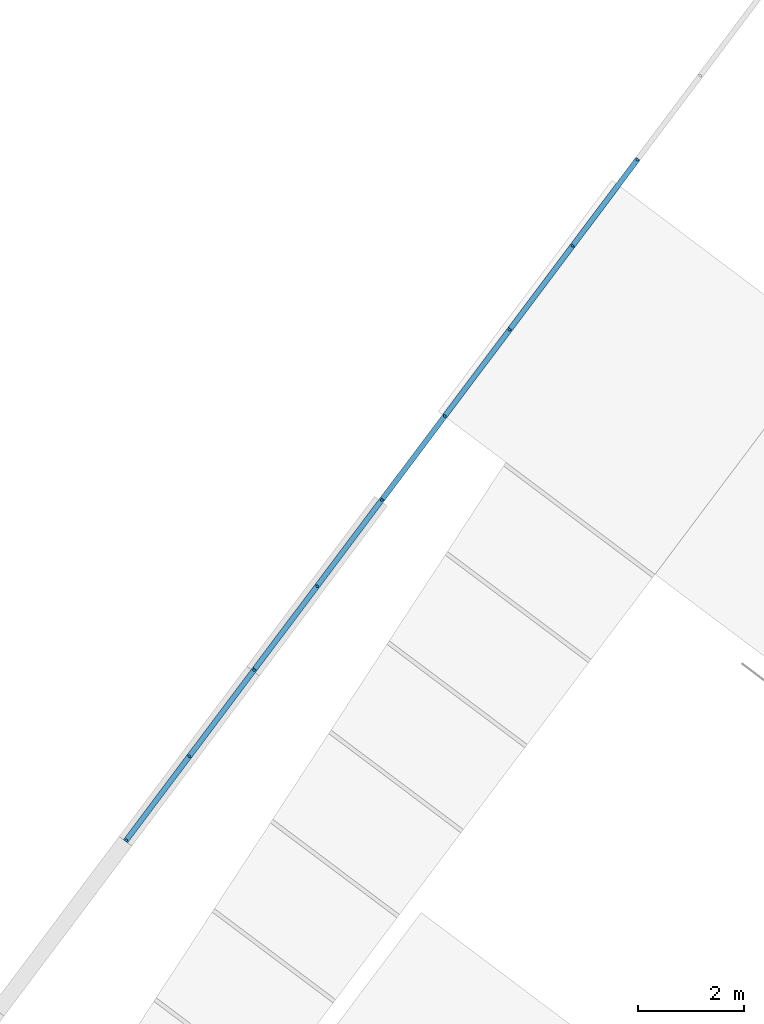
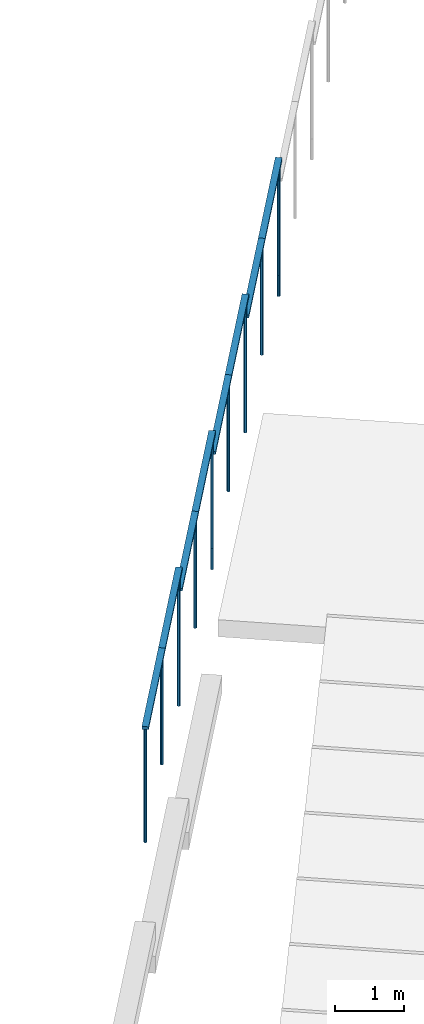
# One storey, part 17 of 33: 21 members, 5 elements without a shape of their own.
"""IFC2X3 building model written with IfcOpenShell, lengths in metres."""

from ifc_helpers import new_model, entity, si_unit, converted_unit, derived_unit, direction, frame, frame_2d, origin, origin_2d_with_axis, place, context, subcontext, project, spatial, rectangle, circle, extrude, source, transform, mapped, material, type_object, type_shapes, element, aggregate, save


model = new_model("IFC2X3")

# Units and contexts
model_context = context("Model", 3, precision=1e-05, world=origin(), true_north=direction((6.123031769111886e-17, 1.0)))
body_context = subcontext(model_context, "Body", "Model", "MODEL_VIEW")
ifc_project = project(units=[si_unit("LENGTHUNIT", "METRE"), si_unit("AREAUNIT", "SQUARE_METRE"), si_unit("VOLUMEUNIT", "CUBIC_METRE"), converted_unit("PLANEANGLEUNIT", "DEGREE", entity("IfcRatioMeasure", 0.017453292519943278), si_unit("PLANEANGLEUNIT", "RADIAN"), dimensions=[0, 0, 0, 0, 0, 0, 0]), si_unit("MASSUNIT", "GRAM", prefix="KILO"), derived_unit("MASSDENSITYUNIT", [(si_unit("MASSUNIT", "GRAM", prefix="KILO"), 1), (si_unit("LENGTHUNIT", "METRE"), -3)]), derived_unit("IONCONCENTRATIONUNIT", [(si_unit("MASSUNIT", "GRAM", prefix="KILO"), 1), (si_unit("LENGTHUNIT", "METRE"), -3)]), derived_unit("MOMENTOFINERTIAUNIT", [(si_unit("LENGTHUNIT", "METRE"), 4)]), si_unit("TIMEUNIT", "SECOND"), si_unit("FREQUENCYUNIT", "HERTZ"), si_unit("THERMODYNAMICTEMPERATUREUNIT", "DEGREE_CELSIUS"), derived_unit("THERMALTRANSMITTANCEUNIT", [(si_unit("MASSUNIT", "GRAM", prefix="KILO"), 1), (si_unit("THERMODYNAMICTEMPERATUREUNIT", "KELVIN"), -1), (si_unit("TIMEUNIT", "SECOND"), -3)]), derived_unit("THERMALCONDUCTANCEUNIT", [(si_unit("MASSUNIT", "GRAM", prefix="KILO"), 1), (si_unit("THERMODYNAMICTEMPERATUREUNIT", "KELVIN"), -1), (si_unit("TIMEUNIT", "SECOND"), -3), (si_unit("LENGTHUNIT", "METRE"), 1)]), derived_unit("VOLUMETRICFLOWRATEUNIT", [(si_unit("LENGTHUNIT", "METRE"), 3), (si_unit("TIMEUNIT", "SECOND"), -1)]), derived_unit("MASSFLOWRATEUNIT", [(si_unit("MASSUNIT", "GRAM", prefix="KILO"), 1), (si_unit("TIMEUNIT", "SECOND"), -1)]), derived_unit("ROTATIONALFREQUENCYUNIT", [(si_unit("TIMEUNIT", "SECOND"), -1)]), si_unit("ELECTRICCURRENTUNIT", "AMPERE"), si_unit("ELECTRICVOLTAGEUNIT", "VOLT"), si_unit("POWERUNIT", "WATT"), si_unit("FORCEUNIT", "NEWTON", prefix="KILO"), si_unit("ILLUMINANCEUNIT", "LUX"), si_unit("LUMINOUSFLUXUNIT", "LUMEN"), si_unit("LUMINOUSINTENSITYUNIT", "CANDELA"), derived_unit("USERDEFINED", [(si_unit("MASSUNIT", "GRAM", prefix="KILO"), -1), (si_unit("LENGTHUNIT", "METRE"), -2), (si_unit("TIMEUNIT", "SECOND"), 3), (si_unit("LUMINOUSFLUXUNIT", "LUMEN"), 1)]), derived_unit("USERDEFINED", [(si_unit("MASSUNIT", "GRAM", prefix="KILO"), 1), (si_unit("TIMEUNIT", "SECOND"), -3), (si_unit("LENGTHUNIT", "METRE"), 3), (si_unit("ELECTRICCURRENTUNIT", "AMPERE"), -2)]), derived_unit("SOUNDPOWERUNIT", [(si_unit("MASSUNIT", "GRAM", prefix="KILO"), 1), (si_unit("TIMEUNIT", "SECOND"), -3), (si_unit("LENGTHUNIT", "METRE"), 2)]), derived_unit("SOUNDPRESSUREUNIT", [(si_unit("MASSUNIT", "GRAM", prefix="KILO"), 1), (si_unit("LENGTHUNIT", "METRE"), -1), (si_unit("TIMEUNIT", "SECOND"), -2)]), derived_unit("LINEARVELOCITYUNIT", [(si_unit("LENGTHUNIT", "METRE"), 1), (si_unit("TIMEUNIT", "SECOND"), -1)]), si_unit("PRESSUREUNIT", "PASCAL"), derived_unit("USERDEFINED", [(si_unit("MASSUNIT", "GRAM", prefix="KILO"), 1), (si_unit("LENGTHUNIT", "METRE"), -2), (si_unit("TIMEUNIT", "SECOND"), -2)]), derived_unit("LINEARFORCEUNIT", [(si_unit("MASSUNIT", "GRAM", prefix="KILO"), 1), (si_unit("TIMEUNIT", "SECOND"), -2)]), derived_unit("PLANARFORCEUNIT", [(si_unit("MASSUNIT", "GRAM", prefix="KILO"), 1), (si_unit("LENGTHUNIT", "METRE"), -1), (si_unit("TIMEUNIT", "SECOND"), -2)]), derived_unit("SPECIFICHEATCAPACITYUNIT", [(si_unit("THERMODYNAMICTEMPERATUREUNIT", "KELVIN"), -1), (si_unit("LENGTHUNIT", "METRE"), 2), (si_unit("TIMEUNIT", "SECOND"), -2)]), derived_unit("HEATINGVALUEUNIT", [(si_unit("LENGTHUNIT", "METRE"), 2), (si_unit("TIMEUNIT", "SECOND"), -2)]), derived_unit("VAPORPERMEABILITYUNIT", [(si_unit("LENGTHUNIT", "METRE"), -1), (si_unit("TIMEUNIT", "SECOND"), 1)]), derived_unit("DYNAMICVISCOSITYUNIT", [(si_unit("MASSUNIT", "GRAM", prefix="KILO"), 1), (si_unit("TIMEUNIT", "SECOND"), -1), (si_unit("LENGTHUNIT", "METRE"), -1)]), derived_unit("THERMALEXPANSIONCOEFFICIENTUNIT", [(si_unit("THERMODYNAMICTEMPERATUREUNIT", "KELVIN"), -1)]), derived_unit("MODULUSOFELASTICITYUNIT", [(si_unit("MASSUNIT", "GRAM", prefix="KILO"), 1), (si_unit("LENGTHUNIT", "METRE"), -1), (si_unit("TIMEUNIT", "SECOND"), -2)]), derived_unit("ISOTHERMALMOISTURECAPACITYUNIT", [(si_unit("LENGTHUNIT", "METRE"), 3), (si_unit("MASSUNIT", "GRAM", prefix="KILO"), -1)]), derived_unit("MOISTUREDIFFUSIVITYUNIT", [(si_unit("TIMEUNIT", "SECOND"), -1), (si_unit("LENGTHUNIT", "METRE"), 2)])], contexts=[model_context])

# Site, building, storey
site_placement = place(None, origin())
site = spatial("IfcSite", under=ifc_project, at=site_placement, Name="Superficie", CompositionType="ELEMENT")
building_placement = place(site_placement, frame((0.0, 0.0, 235.0), z_axis=(0.0, 0.0, 1.0), x_axis=(-0.7996477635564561, 0.6004693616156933, 0.0)))
building = spatial("IfcBuilding", under=site, at=building_placement, CompositionType="ELEMENT")
storey_placement = place(building_placement, origin())
storey = spatial("IfcBuildingStorey", under=building, at=storey_placement, Name="P0- Escola", CompositionType="ELEMENT", Elevation=0.0)

# Curtain wall, member
curtain_wall_type = type_object("IfcCurtainWallType", Name="Muro cortina:SER EXT- Tanca exterior", PredefinedType="NOTDEFINED")
curtain_wall_1_placement = place(storey_placement, origin())
curtain_wall_1 = element("IfcCurtainWall", 1, at=curtain_wall_1_placement, inside=storey, type_object=curtain_wall_type, Name="Muro cortina:SER EXT- Tanca exterior", ObjectType="Muro cortina:SER EXT- Tanca exterior")
ifc_material_1 = material(Name="Acero inoxidable")
member_type_1 = type_object("IfcMemberType", Name="Montante circular:Perfil Tanca exterior", PredefinedType="MULLION", material=ifc_material_1)
shared_shape_1 = source(origin(), body_context, "Body", "SweptSolid", [
    extrude(circle(Radius=0.025, at=frame_2d((-2.1149748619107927e-18, -4.0388614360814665e-17), x_axis=(1.0, 0.0))), frame((0.0, 0.0, -2.0), z_axis=(0.0, 0.0, 1.0), x_axis=(-1.0, 0.0, 0.0)), (0.0, 0.0, 1.0), 1.9999999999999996),
])
type_shapes(member_type_1, [shared_shape_1])
member_1_placement = place(curtain_wall_1_placement, frame((79.69492201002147, -36.14728884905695, -0.11000000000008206), z_axis=(0.0, 0.0, -1.0), x_axis=(0.0, -1.0, 0.0)))
member_1 = element("IfcMember", 2, at=member_1_placement, type_object=member_type_1, material=ifc_material_1, Name="Montante circular:Perfil Tanca exterior", ObjectType="Montante circular:Perfil Tanca exterior", context=body_context, shape_type="MappedRepresentation", body=[
    mapped(shared_shape_1, transform((0.0, 0.0, 0.0), scale=1.0)),
])

curtain_wall_2_placement = place(storey_placement, origin())
curtain_wall_2 = element("IfcCurtainWall", 3, at=curtain_wall_2_placement, inside=storey, type_object=curtain_wall_type, Name="Muro cortina:SER EXT- Tanca exterior", ObjectType="Muro cortina:SER EXT- Tanca exterior")
member_2_placement = place(curtain_wall_2_placement, frame((79.69492201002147, -40.14728884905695, -0.4819999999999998), z_axis=(0.0, 0.0, -1.0), x_axis=(0.0, -1.0, 0.0)))
member_2 = element("IfcMember", 4, at=member_2_placement, type_object=member_type_1, material=ifc_material_1, Name="Montante circular:Perfil Tanca exterior", ObjectType="Montante circular:Perfil Tanca exterior", context=body_context, shape_type="MappedRepresentation", body=[
    mapped(shared_shape_1, transform((0.0, 0.0, 0.0), scale=1.0)),
])

curtain_wall_3_placement = place(storey_placement, origin())
curtain_wall_3 = element("IfcCurtainWall", 5, at=curtain_wall_3_placement, inside=storey, type_object=curtain_wall_type, Name="Muro cortina:SER EXT- Tanca exterior", ObjectType="Muro cortina:SER EXT- Tanca exterior")
member_3_placement = place(curtain_wall_3_placement, frame((79.69492201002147, -44.14728884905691, -0.8539999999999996), z_axis=(0.0, 0.0, -1.0), x_axis=(0.0, -1.0, 0.0)))
member_3 = element("IfcMember", 6, at=member_3_placement, type_object=member_type_1, material=ifc_material_1, Name="Montante circular:Perfil Tanca exterior", ObjectType="Montante circular:Perfil Tanca exterior", context=body_context, shape_type="MappedRepresentation", body=[
    mapped(shared_shape_1, transform((0.0, 0.0, 0.0), scale=1.0)),
])

curtain_wall_4_placement = place(storey_placement, origin())
curtain_wall_4 = element("IfcCurtainWall", 7, at=curtain_wall_4_placement, inside=storey, type_object=curtain_wall_type, Name="Muro cortina:SER EXT- Tanca exterior", ObjectType="Muro cortina:SER EXT- Tanca exterior")
member_4_placement = place(curtain_wall_4_placement, frame((79.69492201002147, -48.147288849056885, -1.2259999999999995), z_axis=(0.0, 0.0, -1.0), x_axis=(0.0, -1.0, 0.0)))
member_4 = element("IfcMember", 8, at=member_4_placement, type_object=member_type_1, material=ifc_material_1, Name="Montante circular:Perfil Tanca exterior", ObjectType="Montante circular:Perfil Tanca exterior", context=body_context, shape_type="MappedRepresentation", body=[
    mapped(shared_shape_1, transform((0.0, 0.0, 0.0), scale=1.0)),
])

# Member
member_type_2 = type_object("IfcMemberType", Name="Montante circular:Perfil Tanca exterior", PredefinedType="MULLION", material=ifc_material_1)
shared_shape_2 = source(origin(), body_context, "Body", "SweptSolid", [
    extrude(circle(Radius=0.025, at=frame_2d((-1.304992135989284e-31, 4.038861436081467e-17), x_axis=(1.0, 0.0))), frame((-0.025, 0.0, -2.0)), (0.0, 0.0, 1.0), 1.9999999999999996),
])
type_shapes(member_type_2, [shared_shape_2])
member_5_placement = place(curtain_wall_1_placement, frame((79.69492201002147, -34.14728884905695, 1.8899999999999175), z_axis=(0.0, 0.0, 1.0), x_axis=(0.0, 1.0, 0.0)))
member_5 = element("IfcMember", 9, at=member_5_placement, type_object=member_type_2, material=ifc_material_1, Name="Montante circular:Perfil Tanca exterior", ObjectType="Montante circular:Perfil Tanca exterior", context=body_context, shape_type="MappedRepresentation", body=[
    mapped(shared_shape_2, transform((0.0, 0.0, 0.0), scale=1.0)),
])

member_type_3 = type_object("IfcMemberType", Name="Montante circular:Perfil Tanca exterior", PredefinedType="MULLION", material=ifc_material_1)
shared_shape_3 = source(origin(), body_context, "Body", "SweptSolid", [
    extrude(circle(Radius=0.025, at=frame_2d((1.3661718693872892e-31, -4.46185640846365e-17), x_axis=(1.0, 0.0))), frame((-0.025, 0.0, -2.0), z_axis=(0.0, 0.0, 1.0), x_axis=(-1.0, 0.0, 0.0)), (0.0, 0.0, 1.0), 1.9999999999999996),
])
type_shapes(member_type_3, [shared_shape_3])
member_6_placement = place(curtain_wall_1_placement, frame((79.69492201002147, -38.197288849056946, -0.11000000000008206), z_axis=(0.0, 0.0, -1.0), x_axis=(0.0, -1.0, 0.0)))
member_6 = element("IfcMember", 10, at=member_6_placement, type_object=member_type_3, material=ifc_material_1, Name="Montante circular:Perfil Tanca exterior", ObjectType="Montante circular:Perfil Tanca exterior", context=body_context, shape_type="MappedRepresentation", body=[
    mapped(shared_shape_3, transform((0.0, 0.0, 0.0), scale=1.0)),
])

member_7_placement = place(curtain_wall_2_placement, frame((79.69492201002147, -42.19728884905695, -0.4819999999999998), z_axis=(0.0, 0.0, -1.0), x_axis=(0.0, -1.0, 0.0)))
member_7 = element("IfcMember", 11, at=member_7_placement, type_object=member_type_3, material=ifc_material_1, Name="Montante circular:Perfil Tanca exterior", ObjectType="Montante circular:Perfil Tanca exterior", context=body_context, shape_type="MappedRepresentation", body=[
    mapped(shared_shape_3, transform((0.0, 0.0, 0.0), scale=1.0)),
])

member_8_placement = place(curtain_wall_3_placement, frame((79.69492201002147, -46.197288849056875, -0.8539999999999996), z_axis=(0.0, 0.0, -1.0), x_axis=(0.0, -1.0, 0.0)))
member_8 = element("IfcMember", 12, at=member_8_placement, type_object=member_type_3, material=ifc_material_1, Name="Montante circular:Perfil Tanca exterior", ObjectType="Montante circular:Perfil Tanca exterior", context=body_context, shape_type="MappedRepresentation", body=[
    mapped(shared_shape_3, transform((0.0, 0.0, 0.0), scale=1.0)),
])

member_9_placement = place(curtain_wall_4_placement, frame((79.69492201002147, -50.1972888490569, -1.2259999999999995), z_axis=(0.0, 0.0, -1.0), x_axis=(0.0, -1.0, 0.0)))
member_9 = element("IfcMember", 13, at=member_9_placement, type_object=member_type_3, material=ifc_material_1, Name="Montante circular:Perfil Tanca exterior", ObjectType="Montante circular:Perfil Tanca exterior", context=body_context, shape_type="MappedRepresentation", body=[
    mapped(shared_shape_3, transform((0.0, 0.0, 0.0), scale=1.0)),
])

member_type_4 = type_object("IfcMemberType", Name="Montante circular:Perfil Tanca exterior", PredefinedType="MULLION", material=ifc_material_1)
shared_shape_4 = source(origin(), body_context, "Body", "SweptSolid", [
    extrude(circle(Radius=0.025, at=frame_2d((-1.304992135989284e-31, 4.038861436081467e-17), x_axis=(1.0, 0.0))), frame((-0.025, 0.0, -2.0500000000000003)), (0.0, 0.0, 1.0), 2.0500000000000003),
])
type_shapes(member_type_4, [shared_shape_4])
member_10_placement = place(curtain_wall_2_placement, frame((79.69492201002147, -38.14728884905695, 1.5679999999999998), z_axis=(0.0, 0.0, 1.0), x_axis=(0.0, 1.0, 0.0)))
member_10 = element("IfcMember", 14, at=member_10_placement, type_object=member_type_4, material=ifc_material_1, Name="Montante circular:Perfil Tanca exterior", ObjectType="Montante circular:Perfil Tanca exterior", context=body_context, shape_type="MappedRepresentation", body=[
    mapped(shared_shape_4, transform((0.0, 0.0, 0.0), scale=1.0)),
])

member_11_placement = place(curtain_wall_3_placement, frame((79.69492201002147, -42.14728884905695, 1.196), z_axis=(0.0, 0.0, 1.0), x_axis=(0.0, 1.0, 0.0)))
member_11 = element("IfcMember", 15, at=member_11_placement, type_object=member_type_4, material=ifc_material_1, Name="Montante circular:Perfil Tanca exterior", ObjectType="Montante circular:Perfil Tanca exterior", context=body_context, shape_type="MappedRepresentation", body=[
    mapped(shared_shape_4, transform((0.0, 0.0, 0.0), scale=1.0)),
])

member_12_placement = place(curtain_wall_4_placement, frame((79.69492201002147, -46.14728884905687, 0.8240000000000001), z_axis=(0.0, 0.0, 1.0), x_axis=(0.0, 1.0, 0.0)))
member_12 = element("IfcMember", 16, at=member_12_placement, type_object=member_type_4, material=ifc_material_1, Name="Montante circular:Perfil Tanca exterior", ObjectType="Montante circular:Perfil Tanca exterior", context=body_context, shape_type="MappedRepresentation", body=[
    mapped(shared_shape_4, transform((0.0, 0.0, 0.0), scale=1.0)),
])

# Curtain wall, member
curtain_wall_5_placement = place(storey_placement, origin())
curtain_wall_5 = element("IfcCurtainWall", 17, at=curtain_wall_5_placement, inside=storey, type_object=curtain_wall_type, Name="Muro cortina:SER EXT- Tanca exterior", ObjectType="Muro cortina:SER EXT- Tanca exterior")
member_13_placement = place(curtain_wall_5_placement, frame((79.69492201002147, -50.1472888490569, 0.4529999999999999), z_axis=(0.0, 0.0, 1.0), x_axis=(0.0, 1.0, 0.0)))
member_13 = element("IfcMember", 18, at=member_13_placement, type_object=member_type_4, material=ifc_material_1, Name="Montante circular:Perfil Tanca exterior", ObjectType="Montante circular:Perfil Tanca exterior", context=body_context, shape_type="MappedRepresentation", body=[
    mapped(shared_shape_4, transform((0.0, 0.0, 0.0), scale=1.0)),
])
aggregate(curtain_wall_5, [member_13])

# Member
ifc_material_2 = material(Name="_Formigó- Solera- T1- STR")
member_type_5 = type_object("IfcMemberType", Name="Montante rectangular:Montante rectangular 100x50", PredefinedType="MULLION", material=ifc_material_2)
shared_shape_5 = source(origin(), body_context, "Body", "SweptSolid", [
    extrude(rectangle(XDim=0.1, YDim=0.05000000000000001, at=origin_2d_with_axis()), frame((-0.025000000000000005, 0.0, -2.049999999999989), z_axis=(0.0, 0.0, 1.0), x_axis=(0.0, -1.0, 0.0)), (0.0, 0.0, 1.0), 2.049999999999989),
])
type_shapes(member_type_5, [shared_shape_5])
member_14_placement = place(curtain_wall_1_placement, frame((79.69492201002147, -38.197288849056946, 1.9399999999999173), z_axis=(0.0, -1.0, 0.0), x_axis=(0.0, 0.0, 1.0)))
member_14 = element("IfcMember", 19, at=member_14_placement, type_object=member_type_5, material=ifc_material_2, Name="Montante rectangular:Montante rectangular 100x50", ObjectType="Montante rectangular:Montante rectangular 100x50", context=body_context, shape_type="MappedRepresentation", body=[
    mapped(shared_shape_5, transform((0.0, 0.0, 0.0), scale=1.0)),
])

member_15_placement = place(curtain_wall_2_placement, frame((79.69492201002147, -42.19728884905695, 1.5679999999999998), z_axis=(0.0, -1.0, 0.0), x_axis=(0.0, 0.0, 1.0)))
member_15 = element("IfcMember", 20, at=member_15_placement, type_object=member_type_5, material=ifc_material_2, Name="Montante rectangular:Montante rectangular 100x50", ObjectType="Montante rectangular:Montante rectangular 100x50", context=body_context, shape_type="MappedRepresentation", body=[
    mapped(shared_shape_5, transform((0.0, 0.0, 0.0), scale=1.0)),
])

member_16_placement = place(curtain_wall_3_placement, frame((79.69492201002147, -46.197288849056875, 1.196), z_axis=(0.0, -1.0, 0.0), x_axis=(0.0, 0.0, 1.0)))
member_16 = element("IfcMember", 21, at=member_16_placement, type_object=member_type_5, material=ifc_material_2, Name="Montante rectangular:Montante rectangular 100x50", ObjectType="Montante rectangular:Montante rectangular 100x50", context=body_context, shape_type="MappedRepresentation", body=[
    mapped(shared_shape_5, transform((0.0, 0.0, 0.0), scale=1.0)),
])

member_17_placement = place(curtain_wall_4_placement, frame((79.69492201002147, -50.1972888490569, 0.8240000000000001), z_axis=(0.0, -1.0, 0.0), x_axis=(0.0, 0.0, 1.0)))
member_17 = element("IfcMember", 22, at=member_17_placement, type_object=member_type_5, material=ifc_material_2, Name="Montante rectangular:Montante rectangular 100x50", ObjectType="Montante rectangular:Montante rectangular 100x50", context=body_context, shape_type="MappedRepresentation", body=[
    mapped(shared_shape_5, transform((0.0, 0.0, 0.0), scale=1.0)),
])

member_type_6 = type_object("IfcMemberType", Name="Montante rectangular:Montante rectangular 100x50", PredefinedType="MULLION", material=ifc_material_2)
shared_shape_6 = source(origin(), body_context, "Body", "SweptSolid", [
    extrude(rectangle(XDim=0.1, YDim=0.05000000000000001, at=origin_2d_with_axis()), frame((-0.025000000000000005, 0.0, -1.9500000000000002), z_axis=(0.0, 0.0, 1.0), x_axis=(0.0, -1.0, 0.0)), (0.0, 0.0, 1.0), 1.9500000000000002),
])
type_shapes(member_type_6, [shared_shape_6])
member_18_placement = place(curtain_wall_2_placement, frame((79.69492201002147, -40.14728884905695, 1.5679999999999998), z_axis=(0.0, -1.0, 0.0), x_axis=(0.0, 0.0, 1.0)))
member_18 = element("IfcMember", 23, at=member_18_placement, type_object=member_type_6, material=ifc_material_2, Name="Montante rectangular:Montante rectangular 100x50", ObjectType="Montante rectangular:Montante rectangular 100x50", context=body_context, shape_type="MappedRepresentation", body=[
    mapped(shared_shape_6, transform((0.0, 0.0, 0.0), scale=1.0)),
])

aggregate(curtain_wall_2, [member_10, member_2, member_7, member_15, member_18])

member_19_placement = place(curtain_wall_3_placement, frame((79.69492201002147, -44.14728884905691, 1.196), z_axis=(0.0, -1.0, 0.0), x_axis=(0.0, 0.0, 1.0)))
member_19 = element("IfcMember", 24, at=member_19_placement, type_object=member_type_6, material=ifc_material_2, Name="Montante rectangular:Montante rectangular 100x50", ObjectType="Montante rectangular:Montante rectangular 100x50", context=body_context, shape_type="MappedRepresentation", body=[
    mapped(shared_shape_6, transform((0.0, 0.0, 0.0), scale=1.0)),
])

aggregate(curtain_wall_3, [member_11, member_3, member_8, member_16, member_19])

member_20_placement = place(curtain_wall_4_placement, frame((79.69492201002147, -48.147288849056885, 0.8240000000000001), z_axis=(0.0, -1.0, 0.0), x_axis=(0.0, 0.0, 1.0)))
member_20 = element("IfcMember", 25, at=member_20_placement, type_object=member_type_6, material=ifc_material_2, Name="Montante rectangular:Montante rectangular 100x50", ObjectType="Montante rectangular:Montante rectangular 100x50", context=body_context, shape_type="MappedRepresentation", body=[
    mapped(shared_shape_6, transform((0.0, 0.0, 0.0), scale=1.0)),
])

aggregate(curtain_wall_4, [member_12, member_4, member_9, member_17, member_20])

member_type_7 = type_object("IfcMemberType", Name="Montante rectangular:Montante rectangular 100x50", PredefinedType="MULLION", material=ifc_material_2)
shared_shape_7 = source(origin(), body_context, "Body", "SweptSolid", [
    extrude(rectangle(XDim=0.1, YDim=0.05000000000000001, at=origin_2d_with_axis()), frame((-0.025000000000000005, 0.0, -1.999999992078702), z_axis=(0.0, 0.0, 1.0), x_axis=(0.0, -1.0, 0.0)), (0.0, 0.0, 1.0), 1.9999999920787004),
])
type_shapes(member_type_7, [shared_shape_7])
member_21_placement = place(curtain_wall_1_placement, frame((79.69492201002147, -36.14728884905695, 1.9399999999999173), z_axis=(0.0, -1.0, 0.0), x_axis=(0.0, 0.0, 1.0)))
member_21 = element("IfcMember", 26, at=member_21_placement, type_object=member_type_7, material=ifc_material_2, Name="Montante rectangular:Montante rectangular 100x50", ObjectType="Montante rectangular:Montante rectangular 100x50", context=body_context, shape_type="MappedRepresentation", body=[
    mapped(shared_shape_7, transform((0.0, 0.0, 0.0), scale=1.0)),
])

aggregate(curtain_wall_1, [member_5, member_1, member_6, member_14, member_21])

save(model, "model.ifc")
